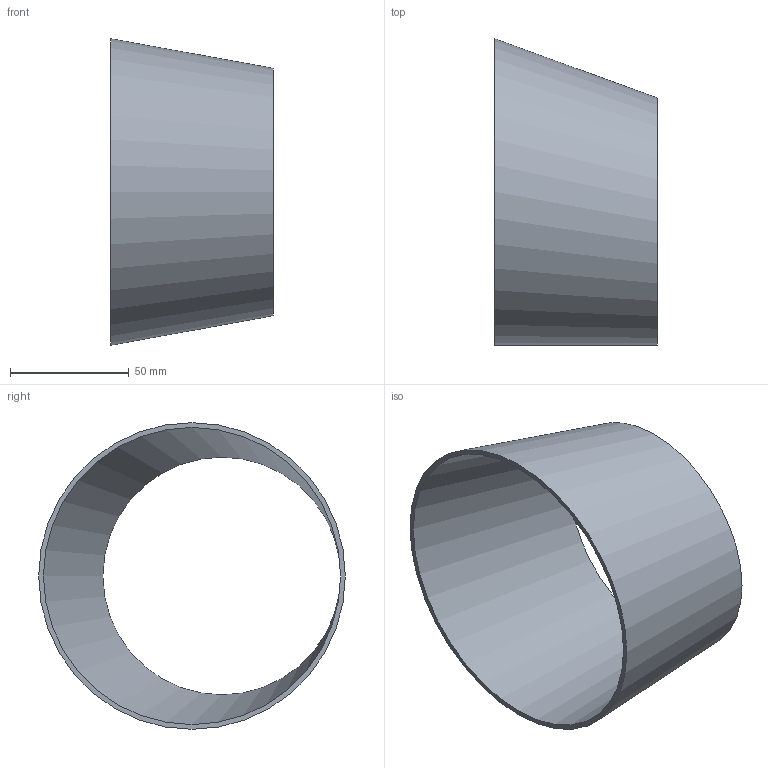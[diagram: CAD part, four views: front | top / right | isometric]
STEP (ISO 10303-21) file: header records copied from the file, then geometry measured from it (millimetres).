
FILE_DESCRIPTION(('FreeCAD Model'),'2;1');
FILE_NAME( '/home/martin/Documents/proyect/accesorios/stp/red-exc_DN125-100.step' ,'2017-12-31T13:05:16',('Author'),(''), 'Open CASCADE STEP processor 6.8','FreeCAD','Unknown');
FILE_SCHEMA(('AUTOMOTIVE_DESIGN_CC2 { 1 2 10303 214 -1 1 5 4 }'));
Length unit declared in the file: millimetre
Products named in the file (1): red-exc_DN125-100
Bounding box: 68.5 x 129 x 129 mm (x, y, z)
Volume: 49280.6 mm3; surface area: 51921.9 mm2
Topology: 1 solids, 1 shells, 4 faces, 6 edges, 4 vertices
Faces by surface type: bspline 2, plane 2
Entity records: 275 total; most frequent: CARTESIAN_POINT 115, DIRECTION 26, ORIENTED_EDGE 12, PCURVE 12, DEFINITIONAL_REPRESENTATION 12, CIRCLE 8, LINE 8, VECTOR 8
